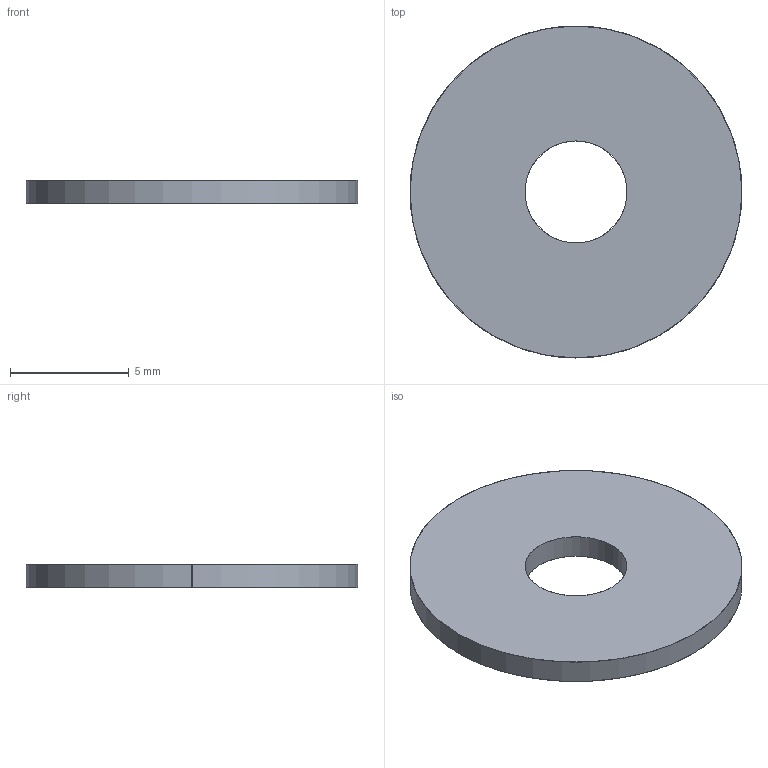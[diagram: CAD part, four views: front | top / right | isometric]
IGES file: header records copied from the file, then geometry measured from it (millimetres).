
Start section: SolidWorks IGES file using analytic representation for surfaces
Bounding box: 14 x 14 x 1 mm (x, y, z)
Surface area: 336.3 mm2 (no closed solid volume)
Topology: 0 solids, 0 shells, 6 faces, 144 edges, 144 vertices
Faces by surface type: revolution 4, bspline 2
